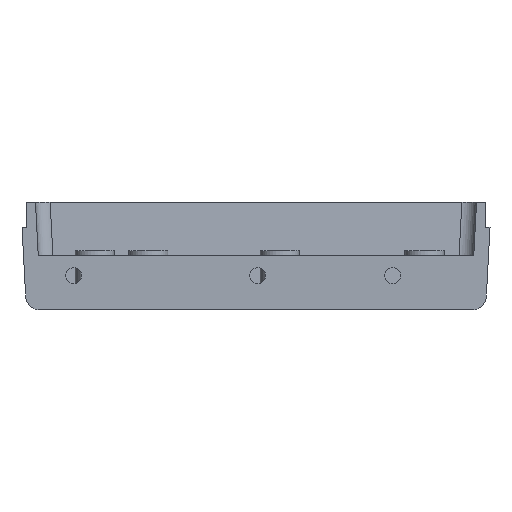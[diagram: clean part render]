
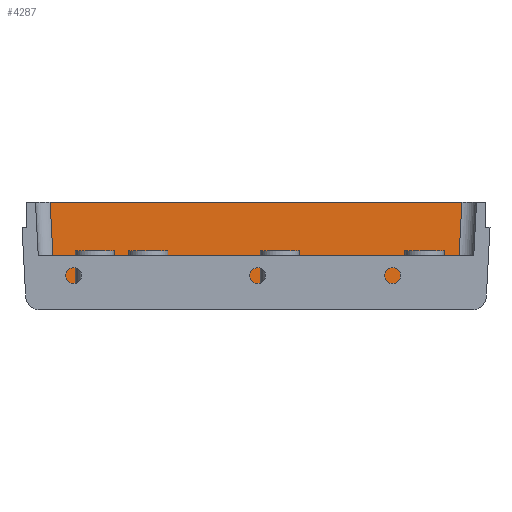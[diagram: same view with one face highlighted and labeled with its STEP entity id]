
A CAD part, left-side view. The second image highlights one B-rep face of the part: STEP entity #4287.
In plain terms, the highlighted planar face has unit normal (-0.999, 0, 0.052).
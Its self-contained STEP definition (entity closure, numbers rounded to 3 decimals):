
#3318 = PLANE('',#3319);
#3319 = AXIS2_PLACEMENT_3D('',#3320,#3321,#3322);
#3320 = CARTESIAN_POINT('',(343.153,255.806,22.));
#3321 = DIRECTION('',(0.,0.,1.));
#3322 = DIRECTION('',(-0.964,-0.268,0.));
#3524 = VERTEX_POINT('',#3525);
#3525 = CARTESIAN_POINT('',(340.149,249.806,22.));
#3544 = CYLINDRICAL_SURFACE('',#3545,3.);
#3545 = AXIS2_PLACEMENT_3D('',#3546,#3547,#3548);
#3546 = CARTESIAN_POINT('',(336.165,248.818,
    3.313));
#3547 = DIRECTION('',(0.052,0.052,
    0.997));
#3548 = DIRECTION('',(0.,0.999,-0.052));
#3558 = EDGE_CURVE('',#3524,#3559,#3561,.T.);
#3559 = VERTEX_POINT('',#3560);
#3560 = CARTESIAN_POINT('',(340.149,165.9,22.));
#3561 = SURFACE_CURVE('',#3562,(#3566,#3573),.PCURVE_S1.);
#3562 = LINE('',#3563,#3564);
#3563 = CARTESIAN_POINT('',(340.149,231.829,22.));
#3564 = VECTOR('',#3565,1.);
#3565 = DIRECTION('',(0.,-1.,0.));
#3566 = PCURVE('',#3318,#3567);
#3567 = DEFINITIONAL_REPRESENTATION('',(#3568),#3572);
#3568 = LINE('',#3569,#3570);
#3569 = CARTESIAN_POINT('',(9.311,22.298));
#3570 = VECTOR('',#3571,1.);
#3571 = DIRECTION('',(0.268,0.964));
#3572 = ( GEOMETRIC_REPRESENTATION_CONTEXT(2) 
PARAMETRIC_REPRESENTATION_CONTEXT() REPRESENTATION_CONTEXT('2D SPACE',''
  ) );
#3573 = PCURVE('',#3574,#3579);
#3574 = PLANE('',#3575);
#3575 = AXIS2_PLACEMENT_3D('',#3576,#3577,#3578);
#3576 = CARTESIAN_POINT('',(339.581,207.853,11.157));
#3577 = DIRECTION('',(-0.999,0.,0.052));
#3578 = DIRECTION('',(0.,-1.,0.));
#3579 = DEFINITIONAL_REPRESENTATION('',(#3580),#3584);
#3580 = LINE('',#3581,#3582);
#3581 = CARTESIAN_POINT('',(-23.976,10.858));
#3582 = VECTOR('',#3583,1.);
#3583 = DIRECTION('',(1.,0.));
#3584 = ( GEOMETRIC_REPRESENTATION_CONTEXT(2) 
PARAMETRIC_REPRESENTATION_CONTEXT() REPRESENTATION_CONTEXT('2D SPACE',''
  ) );
#3603 = CYLINDRICAL_SURFACE('',#3604,3.);
#3604 = AXIS2_PLACEMENT_3D('',#3605,#3606,#3607);
#3605 = CARTESIAN_POINT('',(337.161,165.891,
    22.313));
#3606 = DIRECTION('',(-0.052,0.052,
    -0.997));
#3607 = DIRECTION('',(0.,-0.999,
    -0.052));
#4203 = EDGE_CURVE('',#3559,#4204,#4206,.T.);
#4204 = VERTEX_POINT('',#4205);
#4205 = CARTESIAN_POINT('',(339.252,166.796,
    4.895));
#4206 = SURFACE_CURVE('',#4207,(#4211,#4218),.PCURVE_S1.);
#4207 = LINE('',#4208,#4209);
#4208 = CARTESIAN_POINT('',(340.157,165.891,
    22.156));
#4209 = VECTOR('',#4210,1.);
#4210 = DIRECTION('',(-0.052,0.052,
    -0.997));
#4211 = PCURVE('',#3603,#4212);
#4212 = DEFINITIONAL_REPRESENTATION('',(#4213),#4217);
#4213 = LINE('',#4214,#4215);
#4214 = CARTESIAN_POINT('',(-1.568,0.));
#4215 = VECTOR('',#4216,1.);
#4216 = DIRECTION('',(-0.,1.));
#4217 = ( GEOMETRIC_REPRESENTATION_CONTEXT(2) 
PARAMETRIC_REPRESENTATION_CONTEXT() REPRESENTATION_CONTEXT('2D SPACE',''
  ) );
#4218 = PCURVE('',#3574,#4219);
#4219 = DEFINITIONAL_REPRESENTATION('',(#4220),#4224);
#4220 = LINE('',#4221,#4222);
#4221 = CARTESIAN_POINT('',(41.961,11.014));
#4222 = VECTOR('',#4223,1.);
#4223 = DIRECTION('',(-0.052,-0.999));
#4224 = ( GEOMETRIC_REPRESENTATION_CONTEXT(2) 
PARAMETRIC_REPRESENTATION_CONTEXT() REPRESENTATION_CONTEXT('2D SPACE',''
  ) );
#4287 = ADVANCED_FACE('',(#4288),#3574,.T.);
#4288 = FACE_BOUND('',#4289,.T.);
#4289 = EDGE_LOOP('',(#4290,#4291,#4292,#4315));
#4290 = ORIENTED_EDGE('',*,*,#4203,.F.);
#4291 = ORIENTED_EDGE('',*,*,#3558,.F.);
#4292 = ORIENTED_EDGE('',*,*,#4293,.F.);
#4293 = EDGE_CURVE('',#4294,#3524,#4296,.T.);
#4294 = VERTEX_POINT('',#4295);
#4295 = CARTESIAN_POINT('',(339.252,248.909,
    4.895));
#4296 = SURFACE_CURVE('',#4297,(#4301,#4308),.PCURVE_S1.);
#4297 = LINE('',#4298,#4299);
#4298 = CARTESIAN_POINT('',(339.161,248.818,
    3.156));
#4299 = VECTOR('',#4300,1.);
#4300 = DIRECTION('',(0.052,0.052,
    0.997));
#4301 = PCURVE('',#3574,#4302);
#4302 = DEFINITIONAL_REPRESENTATION('',(#4303),#4307);
#4303 = LINE('',#4304,#4305);
#4304 = CARTESIAN_POINT('',(-40.965,-8.012));
#4305 = VECTOR('',#4306,1.);
#4306 = DIRECTION('',(-0.052,0.999));
#4307 = ( GEOMETRIC_REPRESENTATION_CONTEXT(2) 
PARAMETRIC_REPRESENTATION_CONTEXT() REPRESENTATION_CONTEXT('2D SPACE',''
  ) );
#4308 = PCURVE('',#3544,#4309);
#4309 = DEFINITIONAL_REPRESENTATION('',(#4310),#4314);
#4310 = LINE('',#4311,#4312);
#4311 = CARTESIAN_POINT('',(-1.568,0.));
#4312 = VECTOR('',#4313,1.);
#4313 = DIRECTION('',(-0.,1.));
#4314 = ( GEOMETRIC_REPRESENTATION_CONTEXT(2) 
PARAMETRIC_REPRESENTATION_CONTEXT() REPRESENTATION_CONTEXT('2D SPACE',''
  ) );
#4315 = ORIENTED_EDGE('',*,*,#4316,.F.);
#4316 = EDGE_CURVE('',#4204,#4294,#4317,.T.);
#4317 = SURFACE_CURVE('',#4318,(#4322,#4329),.PCURVE_S1.);
#4318 = LINE('',#4319,#4320);
#4319 = CARTESIAN_POINT('',(339.252,166.895,
    4.895));
#4320 = VECTOR('',#4321,1.);
#4321 = DIRECTION('',(0.,1.,0.));
#4322 = PCURVE('',#3574,#4323);
#4323 = DEFINITIONAL_REPRESENTATION('',(#4324),#4328);
#4324 = LINE('',#4325,#4326);
#4325 = CARTESIAN_POINT('',(40.957,-6.27));
#4326 = VECTOR('',#4327,1.);
#4327 = DIRECTION('',(-1.,0.));
#4328 = ( GEOMETRIC_REPRESENTATION_CONTEXT(2) 
PARAMETRIC_REPRESENTATION_CONTEXT() REPRESENTATION_CONTEXT('2D SPACE',''
  ) );
#4329 = PCURVE('',#4330,#4335);
#4330 = CYLINDRICAL_SURFACE('',#4331,2.);
#4331 = AXIS2_PLACEMENT_3D('',#4332,#4333,#4334);
#4332 = CARTESIAN_POINT('',(337.255,166.895,5.));
#4333 = DIRECTION('',(0.,1.,0.));
#4334 = DIRECTION('',(0.999,0.,-0.052));
#4335 = DEFINITIONAL_REPRESENTATION('',(#4336),#4340);
#4336 = LINE('',#4337,#4338);
#4337 = CARTESIAN_POINT('',(0.,0.));
#4338 = VECTOR('',#4339,1.);
#4339 = DIRECTION('',(0.,1.));
#4340 = ( GEOMETRIC_REPRESENTATION_CONTEXT(2) 
PARAMETRIC_REPRESENTATION_CONTEXT() REPRESENTATION_CONTEXT('2D SPACE',''
  ) );
